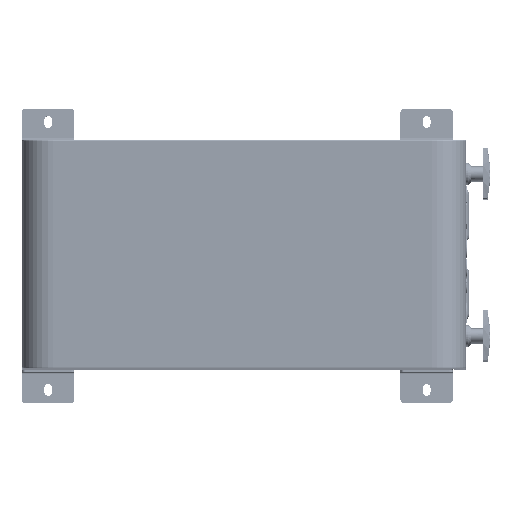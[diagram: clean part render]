
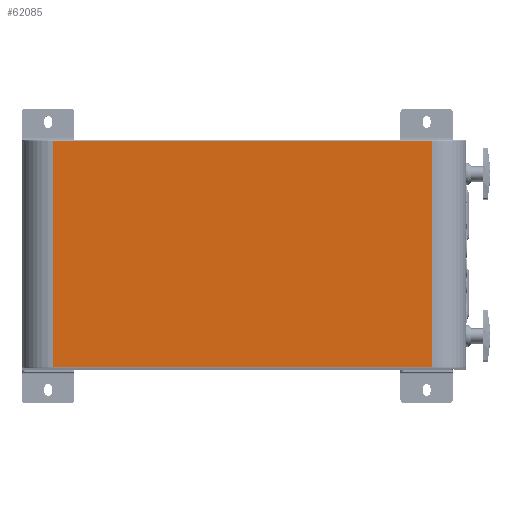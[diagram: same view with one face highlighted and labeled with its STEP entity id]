
A CAD part, top view. The second image highlights one B-rep face of the part: STEP entity #62085.
In plain terms, the highlighted planar face has unit normal (-0.052, 0, 0.999).
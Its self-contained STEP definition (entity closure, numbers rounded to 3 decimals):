
#16394=DIRECTION('',(-0.999,0.,-0.052));
#16395=VECTOR('',#16394,580.796);
#16396=CARTESIAN_POINT('',(287.383,173.,825.38));
#16397=LINE('',#16396,#16395);
#16401=DIRECTION('',(0.,1.,0.));
#16402=VECTOR('',#16401,346.);
#16403=CARTESIAN_POINT('',(287.383,-173.,825.38));
#16404=LINE('',#16403,#16402);
#16408=DIRECTION('',(-0.999,0.,-0.052));
#16409=VECTOR('',#16408,580.796);
#16410=CARTESIAN_POINT('',(287.383,-173.,825.38));
#16411=LINE('',#16410,#16409);
#16415=DIRECTION('',(0.,1.,0.));
#16416=VECTOR('',#16415,346.);
#16417=CARTESIAN_POINT('',(-292.617,-173.,794.983));
#16418=LINE('',#16417,#16416);
#47684=CARTESIAN_POINT('',(-292.617,173.,794.983));
#47685=VERTEX_POINT('',#47684);
#47688=CARTESIAN_POINT('',(287.383,173.,825.38));
#47689=VERTEX_POINT('',#47688);
#47700=CARTESIAN_POINT('',(-292.617,-173.,794.983));
#47701=VERTEX_POINT('',#47700);
#47704=CARTESIAN_POINT('',(287.383,-173.,825.38));
#47705=VERTEX_POINT('',#47704);
#62072=CARTESIAN_POINT('',(340.,-175.,828.137));
#62073=DIRECTION('',(-0.052,0.,0.999));
#62074=DIRECTION('',(-0.999,0.,-0.052));
#62075=AXIS2_PLACEMENT_3D('',#62072,#62073,#62074);
#62076=PLANE('',#62075);
#62077=ORIENTED_EDGE('',*,*,#62056,.F.);
#62079=ORIENTED_EDGE('',*,*,#62078,.F.);
#62081=ORIENTED_EDGE('',*,*,#62080,.T.);
#62082=ORIENTED_EDGE('',*,*,#62016,.T.);
#62083=EDGE_LOOP('',(#62077,#62079,#62081,#62082));
#62084=FACE_OUTER_BOUND('',#62083,.F.);
#62016=EDGE_CURVE('',#47701,#47685,#16418,.T.);
#62056=EDGE_CURVE('',#47689,#47685,#16397,.T.);
#62078=EDGE_CURVE('',#47705,#47689,#16404,.T.);
#62080=EDGE_CURVE('',#47705,#47701,#16411,.T.);
#62085=ADVANCED_FACE('',(#62084),#62076,.T.);
